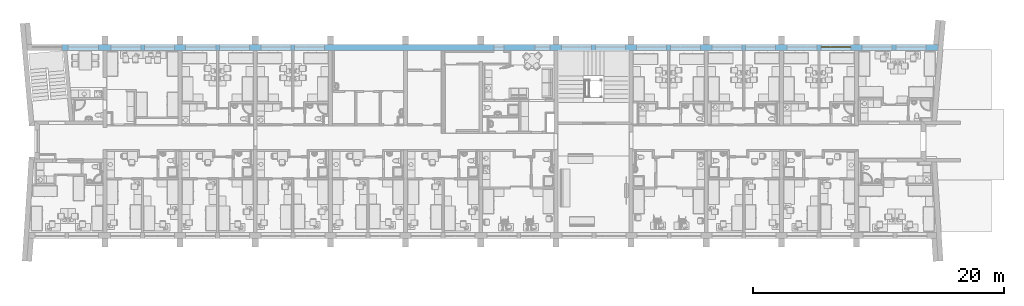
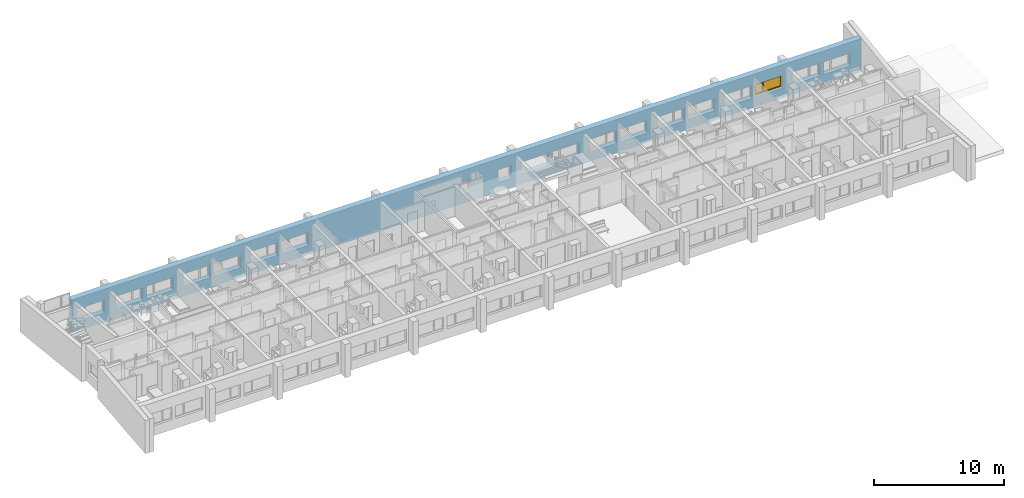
# One storey, part 29 of 172: 1 window, 19 openings, plus 1 element that does not belong to this part.
"""IFC2X3 building model written with IfcOpenShell, lengths in millimetres."""

from ifc_helpers import new_model, entity, si_unit, converted_unit, money_unit, direction, frame, origin_with_axes, place, context, subcontext, project, spatial, polyline, outline, extrude, open_shell, faceted_brep, surface_model, source, transform, mapped, material, material_list, layer, layer_set, layer_usage, type_object, element, fill, save


model = new_model("IFC2X3")

# Units and contexts
model_context = context("Model", 3, precision=1e-05, world=origin_with_axes(), true_north=direction((0.0, 1.0)))
body_context = subcontext(model_context, "Body", "Model", "MODEL_VIEW")
ifc_project = project(units=[si_unit("LENGTHUNIT", "METRE", prefix="MILLI"), si_unit("AREAUNIT", "SQUARE_METRE"), si_unit("VOLUMEUNIT", "CUBIC_METRE"), converted_unit("PLANEANGLEUNIT", "DEGREE", entity("IfcPlaneAngleMeasure", 0.0174532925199), si_unit("PLANEANGLEUNIT", "RADIAN"), dimensions=[0, 0, 0, 0, 0, 0, 0]), si_unit("SOLIDANGLEUNIT", "STERADIAN"), money_unit("USD"), converted_unit("TIMEUNIT", "Year", entity("IfcTimeMeasure", 31556926.0), si_unit("TIMEUNIT", "SECOND"), dimensions=[0, 0, 0, 0, 0, 0, 0]), si_unit("MASSUNIT", "GRAM"), si_unit("THERMODYNAMICTEMPERATUREUNIT", "DEGREE_CELSIUS"), si_unit("LUMINOUSINTENSITYUNIT", "LUMEN")], contexts=[model_context])

# Site, building, storey
site_placement = place(None, origin_with_axes())
site = spatial("IfcSite", under=ifc_project, at=site_placement, Name="Site", CompositionType="ELEMENT")
building_placement = place(site_placement, origin_with_axes())
building = spatial("IfcBuilding", under=site, at=building_placement, Name="Building", CompositionType="ELEMENT")
storey_placement = place(building_placement, frame((0.0, 0.0, 3200.0), z_axis=(0.0, 0.0, 1.0), x_axis=(1.0, 0.0, 0.0)))
storey = spatial("IfcBuildingStorey", under=building, at=storey_placement, Name="3KORRUS", CompositionType="ELEMENT", Elevation=3200.0)

# Wall, openings, window
ifc_material_1 = material(Name="Olemasolevad seinad tellis, uus viimistlus")
ifc_layer = layer(ifc_material_1, 500.0, ventilated="UNKNOWN")
ifc_layer_set = layer_set([ifc_layer], Name="Olemasolevad seinad tellis, uus viimistlus 500")
ifc_layer_usage = layer_usage(ifc_layer_set, "AXIS2", "POSITIVE", -100.0)
wall_type = type_object("IfcWallType", Name="Olemasolevad seinad tellis, uus viimistlus 500", PredefinedType="NOTDEFINED")
wall_placement = place(storey_placement, frame((-51569.3388124, -5039.6041088, 0.0), z_axis=(0.0, 0.0, 1.0), x_axis=(1.0, 0.0, 0.0)))
wall = element("IfcWallStandardCase", 1, at=wall_placement, inside=storey, type_object=wall_type, material=ifc_layer_usage, Name="VS1", ObjectType="VS1", context=body_context, shape_type="SweptSolid", body=[
    extrude(outline(polyline([(0.0, -100.0), (69914.7195482, -100.0), (69959.6995146, 400.0), (0.0, 400.0), (0.0, -100.0)])), origin_with_axes(), (0.0, 0.0, 1.0), 3100.0),
])
opening_1_placement = place(wall_placement, frame((34879.0421091, 0.0, 900.0), z_axis=(0.0, 0.0, 1.0), x_axis=(1.0, 0.0, 0.0)))
element("IfcOpeningElement", 2, at=opening_1_placement, cuts=wall, Name="WD - 001", context=body_context, shape_type="SweptSolid", body=[
    extrude(outline(polyline([(-400.0, 1200.0), (-400.0, 0.0), (400.0, 0.0), (400.0, 1200.0), (-400.0, 1200.0)])), frame((0.0, 200.0, 0.0), z_axis=(0.0, -1.0, 0.0), x_axis=(1.0, 0.0, 0.0)), (0.0, 0.0, 1.0), 800.0),
    extrude(outline(polyline([(-400.0, 0.0), (-400.0, -1200.0), (400.0, -1200.0), (400.0, 0.0), (-400.0, 0.0)])), frame((0.0, 200.0, 0.0), z_axis=(0.0, 1.0, 0.0), x_axis=(1.0, 0.0, 0.0)), (0.0, 0.0, 1.0), 700.0),
])
opening_2_placement = place(wall_placement, frame((38352.6323068, 0.0, 900.0), z_axis=(0.0, 0.0, 1.0), x_axis=(1.0, 0.0, 0.0)))
element("IfcOpeningElement", 3, at=opening_2_placement, cuts=wall, Name="A3", context=body_context, shape_type="SweptSolid", body=[
    extrude(outline(polyline([(-600.0, 1200.0), (-600.0, 0.0), (600.0, 0.0), (600.0, 1200.0), (-600.0, 1200.0)])), frame((0.0, 200.0, 0.0), z_axis=(0.0, -1.0, 0.0), x_axis=(1.0, 0.0, 0.0)), (0.0, 0.0, 1.0), 800.0),
    extrude(outline(polyline([(-600.0, 0.0), (-600.0, -1200.0), (600.0, -1200.0), (600.0, 0.0), (-600.0, 0.0)])), frame((0.0, 200.0, 0.0), z_axis=(0.0, 1.0, 0.0), x_axis=(1.0, 0.0, 0.0)), (0.0, 0.0, 1.0), 700.0),
])
opening_3_placement = place(wall_placement, frame((1700.0, 0.0, 900.0), z_axis=(0.0, 0.0, 1.0), x_axis=(1.0, 0.0, 0.0)))
element("IfcOpeningElement", 4, at=opening_3_placement, cuts=wall, Name="A1", context=body_context, shape_type="SweptSolid", body=[
    extrude(outline(polyline([(1200.0, 1200.0), (-1200.0, 1200.0), (-1200.0, 0.0), (1200.0, 0.0), (1200.0, 1200.0)])), frame((0.0, 200.0, 0.0), z_axis=(0.0, -1.0, 0.0), x_axis=(1.0, 0.0, 0.0)), (0.0, 0.0, 1.0), 800.0),
    extrude(outline(polyline([(1200.0, 0.0), (-1200.0, 0.0), (-1200.0, -1200.0), (1200.0, -1200.0), (1200.0, 0.0)])), frame((0.0, 200.0, 0.0), z_axis=(0.0, 1.0, 0.0), x_axis=(1.0, 0.0, 0.0)), (0.0, 0.0, 1.0), 700.0),
])
opening_4_placement = place(wall_placement, frame((7795.91085613, 0.0, 900.0), z_axis=(0.0, 0.0, 1.0), x_axis=(1.0, 0.0, 0.0)))
element("IfcOpeningElement", 5, at=opening_4_placement, cuts=wall, Name="A1", context=body_context, shape_type="SweptSolid", body=[
    extrude(outline(polyline([(1200.0, 1200.0), (-1200.0, 1200.0), (-1200.0, 0.0), (1200.0, 0.0), (1200.0, 1200.0)])), frame((0.0, 200.0, 0.0), z_axis=(0.0, -1.0, 0.0), x_axis=(1.0, 0.0, 0.0)), (0.0, 0.0, 1.0), 800.0),
    extrude(outline(polyline([(1200.0, 0.0), (-1200.0, 0.0), (-1200.0, -1200.0), (1200.0, -1200.0), (1200.0, 0.0)])), frame((0.0, 200.0, 0.0), z_axis=(0.0, 1.0, 0.0), x_axis=(1.0, 0.0, 0.0)), (0.0, 0.0, 1.0), 700.0),
])
opening_5_placement = place(wall_placement, frame((5095.91085613, 0.0, 900.0), z_axis=(0.0, 0.0, 1.0), x_axis=(1.0, 0.0, 0.0)))
element("IfcOpeningElement", 6, at=opening_5_placement, cuts=wall, Name="A2", context=body_context, shape_type="SweptSolid", body=[
    extrude(outline(polyline([(-1200.0, 1200.0), (-1200.0, 0.0), (1200.0, 0.0), (1200.0, 1200.0), (-1200.0, 1200.0)])), frame((0.0, 200.0, 0.0), z_axis=(0.0, -1.0, 0.0), x_axis=(1.0, 0.0, 0.0)), (0.0, 0.0, 1.0), 800.0),
    extrude(outline(polyline([(-1200.0, 0.0), (-1200.0, -1200.0), (1200.0, -1200.0), (1200.0, 0.0), (-1200.0, 0.0)])), frame((0.0, 200.0, 0.0), z_axis=(0.0, 1.0, 0.0), x_axis=(1.0, 0.0, 0.0)), (0.0, 0.0, 1.0), 700.0),
])
opening_6_placement = place(wall_placement, frame((13779.0421091, 0.0, 900.0), z_axis=(0.0, 0.0, 1.0), x_axis=(1.0, 0.0, 0.0)))
element("IfcOpeningElement", 7, at=opening_6_placement, cuts=wall, Name="A1", context=body_context, shape_type="SweptSolid", body=[
    extrude(outline(polyline([(1200.0, 1200.0), (-1200.0, 1200.0), (-1200.0, 0.0), (1200.0, 0.0), (1200.0, 1200.0)])), frame((0.0, 200.0, 0.0), z_axis=(0.0, -1.0, 0.0), x_axis=(1.0, 0.0, 0.0)), (0.0, 0.0, 1.0), 800.0),
    extrude(outline(polyline([(1200.0, 0.0), (-1200.0, 0.0), (-1200.0, -1200.0), (1200.0, -1200.0), (1200.0, 0.0)])), frame((0.0, 200.0, 0.0), z_axis=(0.0, 1.0, 0.0), x_axis=(1.0, 0.0, 0.0)), (0.0, 0.0, 1.0), 700.0),
])
opening_7_placement = place(wall_placement, frame((11079.0421091, 0.0, 900.0), z_axis=(0.0, 0.0, 1.0), x_axis=(1.0, 0.0, 0.0)))
element("IfcOpeningElement", 8, at=opening_7_placement, cuts=wall, Name="A2", context=body_context, shape_type="SweptSolid", body=[
    extrude(outline(polyline([(-1200.0, 1200.0), (-1200.0, 0.0), (1200.0, 0.0), (1200.0, 1200.0), (-1200.0, 1200.0)])), frame((0.0, 200.0, 0.0), z_axis=(0.0, -1.0, 0.0), x_axis=(1.0, 0.0, 0.0)), (0.0, 0.0, 1.0), 800.0),
    extrude(outline(polyline([(-1200.0, 0.0), (-1200.0, -1200.0), (1200.0, -1200.0), (1200.0, 0.0), (-1200.0, 0.0)])), frame((0.0, 200.0, 0.0), z_axis=(0.0, 1.0, 0.0), x_axis=(1.0, 0.0, 0.0)), (0.0, 0.0, 1.0), 700.0),
])
opening_8_placement = place(wall_placement, frame((43769.0421091, 0.0, 900.0), z_axis=(0.0, 0.0, 1.0), x_axis=(1.0, 0.0, 0.0)))
element("IfcOpeningElement", 9, at=opening_8_placement, cuts=wall, Name="A1", context=body_context, shape_type="SweptSolid", body=[
    extrude(outline(polyline([(1200.0, 1200.0), (-1200.0, 1200.0), (-1200.0, 0.0), (1200.0, 0.0), (1200.0, 1200.0)])), frame((0.0, 200.0, 0.0), z_axis=(0.0, -1.0, 0.0), x_axis=(1.0, 0.0, 0.0)), (0.0, 0.0, 1.0), 800.0),
    extrude(outline(polyline([(1200.0, 0.0), (-1200.0, 0.0), (-1200.0, -1200.0), (1200.0, -1200.0), (1200.0, 0.0)])), frame((0.0, 200.0, 0.0), z_axis=(0.0, 1.0, 0.0), x_axis=(1.0, 0.0, 0.0)), (0.0, 0.0, 1.0), 700.0),
])
opening_9_placement = place(wall_placement, frame((41069.0421091, 0.0, 900.0), z_axis=(0.0, 0.0, 1.0), x_axis=(1.0, 0.0, 0.0)))
element("IfcOpeningElement", 10, at=opening_9_placement, cuts=wall, Name="A2", context=body_context, shape_type="SweptSolid", body=[
    extrude(outline(polyline([(-1200.0, 1200.0), (-1200.0, 0.0), (1200.0, 0.0), (1200.0, 1200.0), (-1200.0, 1200.0)])), frame((0.0, 200.0, 0.0), z_axis=(0.0, -1.0, 0.0), x_axis=(1.0, 0.0, 0.0)), (0.0, 0.0, 1.0), 800.0),
    extrude(outline(polyline([(-1200.0, 0.0), (-1200.0, -1200.0), (1200.0, -1200.0), (1200.0, 0.0), (-1200.0, 0.0)])), frame((0.0, 200.0, 0.0), z_axis=(0.0, 1.0, 0.0), x_axis=(1.0, 0.0, 0.0)), (0.0, 0.0, 1.0), 700.0),
])
opening_10_placement = place(wall_placement, frame((49769.0421091, 0.0, 900.0), z_axis=(0.0, 0.0, 1.0), x_axis=(1.0, 0.0, 0.0)))
element("IfcOpeningElement", 11, at=opening_10_placement, cuts=wall, Name="A1", context=body_context, shape_type="SweptSolid", body=[
    extrude(outline(polyline([(1200.0, 1200.0), (-1200.0, 1200.0), (-1200.0, 0.0), (1200.0, 0.0), (1200.0, 1200.0)])), frame((0.0, 200.0, 0.0), z_axis=(0.0, -1.0, 0.0), x_axis=(1.0, 0.0, 0.0)), (0.0, 0.0, 1.0), 800.0),
    extrude(outline(polyline([(1200.0, 0.0), (-1200.0, 0.0), (-1200.0, -1200.0), (1200.0, -1200.0), (1200.0, 0.0)])), frame((0.0, 200.0, 0.0), z_axis=(0.0, 1.0, 0.0), x_axis=(1.0, 0.0, 0.0)), (0.0, 0.0, 1.0), 700.0),
])
opening_11_placement = place(wall_placement, frame((47069.0421091, 0.0, 900.0), z_axis=(0.0, 0.0, 1.0), x_axis=(1.0, 0.0, 0.0)))
element("IfcOpeningElement", 12, at=opening_11_placement, cuts=wall, Name="A2", context=body_context, shape_type="SweptSolid", body=[
    extrude(outline(polyline([(-1200.0, 1200.0), (-1200.0, 0.0), (1200.0, 0.0), (1200.0, 1200.0), (-1200.0, 1200.0)])), frame((0.0, 200.0, 0.0), z_axis=(0.0, -1.0, 0.0), x_axis=(1.0, 0.0, 0.0)), (0.0, 0.0, 1.0), 800.0),
    extrude(outline(polyline([(-1200.0, 0.0), (-1200.0, -1200.0), (1200.0, -1200.0), (1200.0, 0.0), (-1200.0, 0.0)])), frame((0.0, 200.0, 0.0), z_axis=(0.0, 1.0, 0.0), x_axis=(1.0, 0.0, 0.0)), (0.0, 0.0, 1.0), 700.0),
])
opening_12_placement = place(wall_placement, frame((55769.0421091, 0.0, 900.0), z_axis=(0.0, 0.0, 1.0), x_axis=(1.0, 0.0, 0.0)))
element("IfcOpeningElement", 13, at=opening_12_placement, cuts=wall, Name="A1", context=body_context, shape_type="SweptSolid", body=[
    extrude(outline(polyline([(1200.0, 1200.0), (-1200.0, 1200.0), (-1200.0, 0.0), (1200.0, 0.0), (1200.0, 1200.0)])), frame((0.0, 200.0, 0.0), z_axis=(0.0, -1.0, 0.0), x_axis=(1.0, 0.0, 0.0)), (0.0, 0.0, 1.0), 800.0),
    extrude(outline(polyline([(1200.0, 0.0), (-1200.0, 0.0), (-1200.0, -1200.0), (1200.0, -1200.0), (1200.0, 0.0)])), frame((0.0, 200.0, 0.0), z_axis=(0.0, 1.0, 0.0), x_axis=(1.0, 0.0, 0.0)), (0.0, 0.0, 1.0), 700.0),
])
opening_13_placement = place(wall_placement, frame((53069.0421091, 0.0, 900.0), z_axis=(0.0, 0.0, 1.0), x_axis=(1.0, 0.0, 0.0)))
element("IfcOpeningElement", 14, at=opening_13_placement, cuts=wall, Name="A2", context=body_context, shape_type="SweptSolid", body=[
    extrude(outline(polyline([(-1200.0, 1200.0), (-1200.0, 0.0), (1200.0, 0.0), (1200.0, 1200.0), (-1200.0, 1200.0)])), frame((0.0, 200.0, 0.0), z_axis=(0.0, -1.0, 0.0), x_axis=(1.0, 0.0, 0.0)), (0.0, 0.0, 1.0), 800.0),
    extrude(outline(polyline([(-1200.0, 0.0), (-1200.0, -1200.0), (1200.0, -1200.0), (1200.0, 0.0), (-1200.0, 0.0)])), frame((0.0, 200.0, 0.0), z_axis=(0.0, 1.0, 0.0), x_axis=(1.0, 0.0, 0.0)), (0.0, 0.0, 1.0), 700.0),
])
opening_14_placement = place(wall_placement, frame((61769.0421091, 0.0, 900.0), z_axis=(0.0, 0.0, 1.0), x_axis=(1.0, 0.0, 0.0)))
opening_14 = element("IfcOpeningElement", 15, at=opening_14_placement, cuts=wall, Name="A1", context=body_context, shape_type="SweptSolid", body=[
    extrude(outline(polyline([(1200.0, 1200.0), (-1200.0, 1200.0), (-1200.0, 0.0), (1200.0, 0.0), (1200.0, 1200.0)])), frame((0.0, 200.0, 0.0), z_axis=(0.0, -1.0, 0.0), x_axis=(1.0, 0.0, 0.0)), (0.0, 0.0, 1.0), 800.0),
    extrude(outline(polyline([(1200.0, 0.0), (-1200.0, 0.0), (-1200.0, -1200.0), (1200.0, -1200.0), (1200.0, 0.0)])), frame((0.0, 200.0, 0.0), z_axis=(0.0, 1.0, 0.0), x_axis=(1.0, 0.0, 0.0)), (0.0, 0.0, 1.0), 700.0),
])
opening_15_placement = place(wall_placement, frame((59069.0421091, 0.0, 900.0), z_axis=(0.0, 0.0, 1.0), x_axis=(1.0, 0.0, 0.0)))
element("IfcOpeningElement", 16, at=opening_15_placement, cuts=wall, Name="A2", context=body_context, shape_type="SweptSolid", body=[
    extrude(outline(polyline([(-1200.0, 1200.0), (-1200.0, 0.0), (1200.0, 0.0), (1200.0, 1200.0), (-1200.0, 1200.0)])), frame((0.0, 200.0, 0.0), z_axis=(0.0, -1.0, 0.0), x_axis=(1.0, 0.0, 0.0)), (0.0, 0.0, 1.0), 800.0),
    extrude(outline(polyline([(-1200.0, 0.0), (-1200.0, -1200.0), (1200.0, -1200.0), (1200.0, 0.0), (-1200.0, 0.0)])), frame((0.0, 200.0, 0.0), z_axis=(0.0, 1.0, 0.0), x_axis=(1.0, 0.0, 0.0)), (0.0, 0.0, 1.0), 700.0),
])
opening_16_placement = place(wall_placement, frame((67773.3244043, 0.0, 900.0), z_axis=(0.0, 0.0, 1.0), x_axis=(1.0, 0.0, 0.0)))
element("IfcOpeningElement", 17, at=opening_16_placement, cuts=wall, Name="A1", context=body_context, shape_type="SweptSolid", body=[
    extrude(outline(polyline([(1200.0, 1200.0), (-1200.0, 1200.0), (-1200.0, 0.0), (1200.0, 0.0), (1200.0, 1200.0)])), frame((0.0, 200.0, 0.0), z_axis=(0.0, -1.0, 0.0), x_axis=(1.0, 0.0, 0.0)), (0.0, 0.0, 1.0), 800.0),
    extrude(outline(polyline([(1200.0, 0.0), (-1200.0, 0.0), (-1200.0, -1200.0), (1200.0, -1200.0), (1200.0, 0.0)])), frame((0.0, 200.0, 0.0), z_axis=(0.0, 1.0, 0.0), x_axis=(1.0, 0.0, 0.0)), (0.0, 0.0, 1.0), 700.0),
])
opening_17_placement = place(wall_placement, frame((65073.3244043, 0.0, 900.0), z_axis=(0.0, 0.0, 1.0), x_axis=(1.0, 0.0, 0.0)))
element("IfcOpeningElement", 18, at=opening_17_placement, cuts=wall, Name="A2", context=body_context, shape_type="SweptSolid", body=[
    extrude(outline(polyline([(-1200.0, 1200.0), (-1200.0, 0.0), (1200.0, 0.0), (1200.0, 1200.0), (-1200.0, 1200.0)])), frame((0.0, 200.0, 0.0), z_axis=(0.0, -1.0, 0.0), x_axis=(1.0, 0.0, 0.0)), (0.0, 0.0, 1.0), 800.0),
    extrude(outline(polyline([(-1200.0, 0.0), (-1200.0, -1200.0), (1200.0, -1200.0), (1200.0, 0.0), (-1200.0, 0.0)])), frame((0.0, 200.0, 0.0), z_axis=(0.0, 1.0, 0.0), x_axis=(1.0, 0.0, 0.0)), (0.0, 0.0, 1.0), 700.0),
])
opening_18_placement = place(wall_placement, frame((19767.4765851, 0.0, 900.0), z_axis=(0.0, 0.0, 1.0), x_axis=(1.0, 0.0, 0.0)))
element("IfcOpeningElement", 19, at=opening_18_placement, cuts=wall, Name="A1", context=body_context, shape_type="SweptSolid", body=[
    extrude(outline(polyline([(1200.0, 1200.0), (-1200.0, 1200.0), (-1200.0, 0.0), (1200.0, 0.0), (1200.0, 1200.0)])), frame((0.0, 200.0, 0.0), z_axis=(0.0, -1.0, 0.0), x_axis=(1.0, 0.0, 0.0)), (0.0, 0.0, 1.0), 800.0),
    extrude(outline(polyline([(1200.0, 0.0), (-1200.0, 0.0), (-1200.0, -1200.0), (1200.0, -1200.0), (1200.0, 0.0)])), frame((0.0, 200.0, 0.0), z_axis=(0.0, 1.0, 0.0), x_axis=(1.0, 0.0, 0.0)), (0.0, 0.0, 1.0), 700.0),
])
opening_19_placement = place(wall_placement, frame((17067.4765851, 0.0, 900.0), z_axis=(0.0, 0.0, 1.0), x_axis=(1.0, 0.0, 0.0)))
element("IfcOpeningElement", 20, at=opening_19_placement, cuts=wall, Name="A2", context=body_context, shape_type="SweptSolid", body=[
    extrude(outline(polyline([(-1200.0, 1200.0), (-1200.0, 0.0), (1200.0, 0.0), (1200.0, 1200.0), (-1200.0, 1200.0)])), frame((0.0, 200.0, 0.0), z_axis=(0.0, -1.0, 0.0), x_axis=(1.0, 0.0, 0.0)), (0.0, 0.0, 1.0), 800.0),
    extrude(outline(polyline([(-1200.0, 0.0), (-1200.0, -1200.0), (1200.0, -1200.0), (1200.0, 0.0), (-1200.0, 0.0)])), frame((0.0, 200.0, 0.0), z_axis=(0.0, 1.0, 0.0), x_axis=(1.0, 0.0, 0.0)), (0.0, 0.0, 1.0), 700.0),
])
ifc_material_2 = material(Name="Background")
ifc_material_list = material_list([ifc_material_2])
window_style = type_object("IfcWindowStyle", Name="Double Window 19", ConstructionType="NOTDEFINED", OperationType="DOUBLE_PANEL_VERTICAL", ParameterTakesPrecedence=False, Sizeable=False)
shared_shape = source(origin_with_axes(), body_context, "Body", "SurfaceModel", [
    faceted_brep([(1175.0, -200.0, 1150.0), (1175.0, -225.0, 1150.0), (1150.0, -225.0, 1150.0), (1150.0, -250.0, 1150.0), (1200.0, -250.0, 1150.0), (1200.0, -200.0, 1150.0), (1175.0, -200.0, 50.0), (1175.0, -225.0, 50.0), (1150.0, -225.0, 50.0), (1150.0, -250.0, 50.0), (1200.0, -250.0, 50.0), (1200.0, -200.0, 50.0)], [[[0, 1, 2, 3, 4, 5]], [[1, 0, 6, 7]], [[8, 2, 1, 7]], [[2, 8, 9, 3]], [[4, 3, 9, 10]], [[5, 4, 10, 11]], [[6, 0, 5, 11]], [[7, 6, 11, 10, 9, 8]]]),
    faceted_brep([(-1150.0, -225.0, 1150.0), (-1175.0, -225.0, 1150.0), (-1175.0, -200.0, 1150.0), (-1200.0, -200.0, 1150.0), (-1200.0, -250.0, 1150.0), (-1150.0, -250.0, 1150.0), (-1150.0, -225.0, 50.0), (-1175.0, -225.0, 50.0), (-1175.0, -200.0, 50.0), (-1200.0, -200.0, 50.0), (-1200.0, -250.0, 50.0), (-1150.0, -250.0, 50.0)], [[[0, 1, 2, 3, 4, 5]], [[1, 0, 6, 7]], [[8, 2, 1, 7]], [[2, 8, 9, 3]], [[9, 10, 4, 3]], [[10, 11, 5, 4]], [[6, 0, 5, 11]], [[7, 6, 11, 10, 9, 8]]]),
    faceted_brep([(-350.0, -225.0, 1150.0), (-375.0, -225.0, 1150.0), (-375.0, -200.0, 1150.0), (-425.0, -200.0, 1150.0), (-425.0, -225.0, 1150.0), (-450.0, -225.0, 1150.0), (-450.0, -250.0, 1150.0), (-350.0, -250.0, 1150.0), (-350.0, -225.0, 50.0), (-375.0, -225.0, 50.0), (-375.0, -200.0, 50.0), (-425.0, -200.0, 50.0), (-425.0, -225.0, 50.0), (-450.0, -225.0, 50.0), (-450.0, -250.0, 50.0), (-350.0, -250.0, 50.0)], [[[0, 1, 2, 3, 4, 5, 6, 7]], [[1, 0, 8, 9]], [[10, 2, 1, 9]], [[2, 10, 11, 3]], [[4, 3, 11, 12]], [[13, 5, 4, 12]], [[5, 13, 14, 6]], [[14, 15, 7, 6]], [[8, 0, 7, 15]], [[9, 8, 15, 14, 13, 12, 11, 10]]]),
    faceted_brep([(-350.0, -225.0, 50.0), (-375.0, -225.0, 50.0), (-375.0, -200.0, 50.0), (-425.0, -200.0, 50.0), (-425.0, -225.0, 50.0), (-450.0, -225.0, 50.0), (-450.0, -250.0, 50.0), (-350.0, -250.0, 50.0), (1150.0, -225.0, 50.0), (1175.0, -225.0, 50.0), (1175.0, -225.0, 25.0), (-375.0, -225.0, 25.0), (-375.0, -200.0, 25.0), (1175.0, -200.0, 25.0), (1175.0, -200.0, 50.0), (1200.0, -200.0, 50.0), (1200.0, -200.0, 0.0), (-1200.0, -200.0, 0.0), (-1200.0, -200.0, 50.0), (-1175.0, -200.0, 50.0), (-1175.0, -200.0, 25.0), (-425.0, -200.0, 25.0), (-425.0, -225.0, 25.0), (-1175.0, -225.0, 50.0), (-1150.0, -225.0, 50.0), (-1175.0, -225.0, 25.0), (-1150.0, -250.0, 50.0), (1200.0, -250.0, 50.0), (1150.0, -250.0, 50.0), (-1200.0, -250.0, 50.0), (-1200.0, -250.0, 0.0), (1200.0, -250.0, 0.0)], [[[0, 1, 2, 3, 4, 5, 6, 7]], [[1, 0, 8, 9, 10, 11]], [[12, 2, 1, 11]], [[13, 14, 15, 16, 17, 18, 19, 20, 21, 3, 2, 12]], [[4, 3, 21, 22]], [[23, 24, 5, 4, 22, 25]], [[5, 24, 26, 6]], [[27, 28, 7, 6, 26, 29, 30, 31]], [[8, 0, 7, 28]], [[9, 8, 28, 27, 15, 14]], [[9, 14, 13, 10]], [[13, 12, 11, 10]], [[15, 27, 31, 16]], [[16, 31, 30, 17]], [[17, 30, 29, 18]], [[24, 23, 19, 18, 29, 26]], [[20, 19, 23, 25]], [[21, 20, 25, 22]]]),
    faceted_brep([(1175.0, -200.0, 1150.0), (1175.0, -200.0, 1175.0), (-375.0, -200.0, 1175.0), (-375.0, -200.0, 1150.0), (-425.0, -200.0, 1150.0), (-425.0, -200.0, 1175.0), (-1175.0, -200.0, 1175.0), (-1175.0, -200.0, 1150.0), (-1200.0, -200.0, 1150.0), (-1200.0, -200.0, 1200.0), (1200.0, -200.0, 1200.0), (1200.0, -200.0, 1150.0), (1175.0, -225.0, 1150.0), (1175.0, -225.0, 1175.0), (-375.0, -225.0, 1175.0), (-375.0, -225.0, 1150.0), (-350.0, -225.0, 1150.0), (-350.0, -250.0, 1150.0), (-450.0, -250.0, 1150.0), (-450.0, -225.0, 1150.0), (-425.0, -225.0, 1150.0), (-425.0, -225.0, 1175.0), (-1175.0, -225.0, 1175.0), (-1175.0, -225.0, 1150.0), (-1150.0, -225.0, 1150.0), (-1150.0, -250.0, 1150.0), (-1200.0, -250.0, 1150.0), (-1200.0, -250.0, 1200.0), (1200.0, -250.0, 1200.0), (1200.0, -250.0, 1150.0), (1150.0, -250.0, 1150.0), (1150.0, -225.0, 1150.0)], [[[0, 1, 2, 3, 4, 5, 6, 7, 8, 9, 10, 11]], [[1, 0, 12, 13]], [[2, 1, 13, 14]], [[3, 2, 14, 15]], [[15, 16, 17, 18, 19, 20, 4, 3]], [[5, 4, 20, 21]], [[6, 5, 21, 22]], [[7, 6, 22, 23]], [[23, 24, 25, 26, 8, 7]], [[8, 26, 27, 9]], [[9, 27, 28, 10]], [[10, 28, 29, 11]], [[12, 0, 11, 29, 30, 31]], [[16, 15, 14, 13, 12, 31]], [[16, 31, 30, 17]], [[18, 17, 30, 29, 28, 27, 26, 25]], [[24, 19, 18, 25]], [[24, 23, 22, 21, 20, 19]]]),
    faceted_brep([(1125.0, -225.0, 1125.0), (1175.0, -225.0, 1125.0), (1175.0, -175.0, 1125.0), (1125.0, -175.0, 1125.0), (1125.0, -225.0, 75.0), (1175.0, -225.0, 75.0), (1175.0, -175.0, 75.0), (1125.0, -175.0, 75.0)], [[[0, 1, 2, 3]], [[0, 4, 5, 1]], [[1, 5, 6, 2]], [[3, 2, 6, 7]], [[4, 0, 3, 7]], [[5, 4, 7, 6]]]),
    faceted_brep([(-325.0, -225.0, 75.0), (-375.0, -225.0, 75.0), (-375.0, -175.0, 75.0), (-325.0, -175.0, 75.0), (-325.0, -225.0, 1125.0), (-375.0, -225.0, 1125.0), (-375.0, -175.0, 1125.0), (-325.0, -175.0, 1125.0)], [[[0, 1, 2, 3]], [[0, 4, 5, 1]], [[1, 5, 6, 2]], [[3, 2, 6, 7]], [[4, 0, 3, 7]], [[5, 4, 7, 6]]]),
    faceted_brep([(-375.0, -225.0, 25.0), (-375.0, -225.0, 75.0), (-375.0, -175.0, 75.0), (-375.0, -175.0, 25.0), (1175.0, -225.0, 25.0), (1175.0, -225.0, 75.0), (1125.0, -225.0, 75.0), (-325.0, -225.0, 75.0), (-325.0, -175.0, 75.0), (1125.0, -175.0, 75.0), (1175.0, -175.0, 75.0), (1175.0, -175.0, 25.0)], [[[0, 1, 2, 3]], [[0, 4, 5, 6, 7, 1]], [[1, 7, 8, 2]], [[3, 2, 8, 9, 10, 11]], [[4, 0, 3, 11]], [[5, 4, 11, 10]], [[6, 5, 10, 9]], [[7, 6, 9, 8]]]),
    faceted_brep([(1175.0, -225.0, 1175.0), (1175.0, -225.0, 1125.0), (1175.0, -175.0, 1125.0), (1175.0, -175.0, 1175.0), (-375.0, -225.0, 1175.0), (-375.0, -225.0, 1125.0), (-325.0, -225.0, 1125.0), (1125.0, -225.0, 1125.0), (1125.0, -175.0, 1125.0), (-325.0, -175.0, 1125.0), (-375.0, -175.0, 1125.0), (-375.0, -175.0, 1175.0)], [[[0, 1, 2, 3]], [[0, 4, 5, 6, 7, 1]], [[1, 7, 8, 2]], [[3, 2, 8, 9, 10, 11]], [[4, 0, 3, 11]], [[5, 4, 11, 10]], [[6, 5, 10, 9]], [[7, 6, 9, 8]]]),
    surface_model("IfcShellBasedSurfaceModel", [(1125.0, -210.0, 75.0), (1125.0, -210.0, 1125.0), (-325.0, -210.0, 1125.0), (-325.0, -210.0, 75.0)], [open_shell([[[0, 1, 2, 3]]])]),
    surface_model("IfcShellBasedSurfaceModel", [(1125.0, -190.0, 75.0), (-325.0, -190.0, 75.0), (-325.0, -190.0, 1125.0), (1125.0, -190.0, 1125.0)], [open_shell([[[0, 1, 2, 3]]])]),
    faceted_brep([(-475.0, -225.0, 1125.0), (-425.0, -225.0, 1125.0), (-425.0, -175.0, 1125.0), (-475.0, -175.0, 1125.0), (-475.0, -225.0, 75.0), (-425.0, -225.0, 75.0), (-425.0, -175.0, 75.0), (-475.0, -175.0, 75.0)], [[[0, 1, 2, 3]], [[0, 4, 5, 1]], [[1, 5, 6, 2]], [[3, 2, 6, 7]], [[4, 0, 3, 7]], [[5, 4, 7, 6]]]),
    faceted_brep([(-1125.0, -225.0, 75.0), (-1175.0, -225.0, 75.0), (-1175.0, -175.0, 75.0), (-1125.0, -175.0, 75.0), (-1125.0, -225.0, 1125.0), (-1175.0, -225.0, 1125.0), (-1175.0, -175.0, 1125.0), (-1125.0, -175.0, 1125.0)], [[[0, 1, 2, 3]], [[0, 4, 5, 1]], [[1, 5, 6, 2]], [[3, 2, 6, 7]], [[4, 0, 3, 7]], [[5, 4, 7, 6]]]),
    faceted_brep([(-1175.0, -225.0, 25.0), (-1175.0, -225.0, 75.0), (-1175.0, -175.0, 75.0), (-1175.0, -175.0, 25.0), (-425.0, -225.0, 25.0), (-425.0, -225.0, 75.0), (-475.0, -225.0, 75.0), (-1125.0, -225.0, 75.0), (-1125.0, -175.0, 75.0), (-475.0, -175.0, 75.0), (-425.0, -175.0, 75.0), (-425.0, -175.0, 25.0)], [[[0, 1, 2, 3]], [[0, 4, 5, 6, 7, 1]], [[1, 7, 8, 2]], [[3, 2, 8, 9, 10, 11]], [[4, 0, 3, 11]], [[5, 4, 11, 10]], [[6, 5, 10, 9]], [[7, 6, 9, 8]]]),
    faceted_brep([(-425.0, -225.0, 1175.0), (-425.0, -225.0, 1125.0), (-425.0, -175.0, 1125.0), (-425.0, -175.0, 1175.0), (-1175.0, -225.0, 1175.0), (-1175.0, -225.0, 1125.0), (-1125.0, -225.0, 1125.0), (-475.0, -225.0, 1125.0), (-475.0, -175.0, 1125.0), (-1125.0, -175.0, 1125.0), (-1175.0, -175.0, 1125.0), (-1175.0, -175.0, 1175.0)], [[[0, 1, 2, 3]], [[0, 4, 5, 6, 7, 1]], [[1, 7, 8, 2]], [[3, 2, 8, 9, 10, 11]], [[4, 0, 3, 11]], [[5, 4, 11, 10]], [[6, 5, 10, 9]], [[7, 6, 9, 8]]]),
    surface_model("IfcShellBasedSurfaceModel", [(-475.0, -210.0, 75.0), (-475.0, -210.0, 1125.0), (-1125.0, -210.0, 1125.0), (-1125.0, -210.0, 75.0)], [open_shell([[[0, 1, 2, 3]]])]),
    surface_model("IfcShellBasedSurfaceModel", [(-475.0, -190.0, 75.0), (-1125.0, -190.0, 75.0), (-1125.0, -190.0, 1125.0), (-475.0, -190.0, 1125.0)], [open_shell([[[0, 1, 2, 3]]])]),
])
window_placement = place(opening_14_placement, frame((-1200.0, 0.0, 0.0), z_axis=(0.0, 0.0, 1.0), x_axis=(1.0, 0.0, 0.0)))
window = element("IfcWindow", 21, at=window_placement, inside=storey, type_object=window_style, material=ifc_material_list, Name="A1", ObjectType="A1", OverallHeight=1200.0, OverallWidth=2400.0, context=body_context, shape_type="MappedRepresentation", body=[
    mapped(shared_shape, transform((1200.0, 400.0, 0.0))),
])
fill(opening_14, window)

save(model, "model.ifc")
